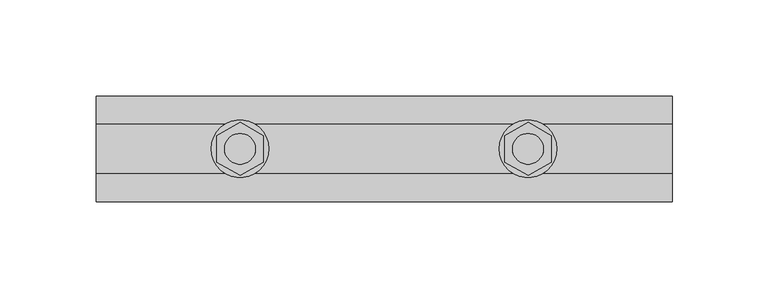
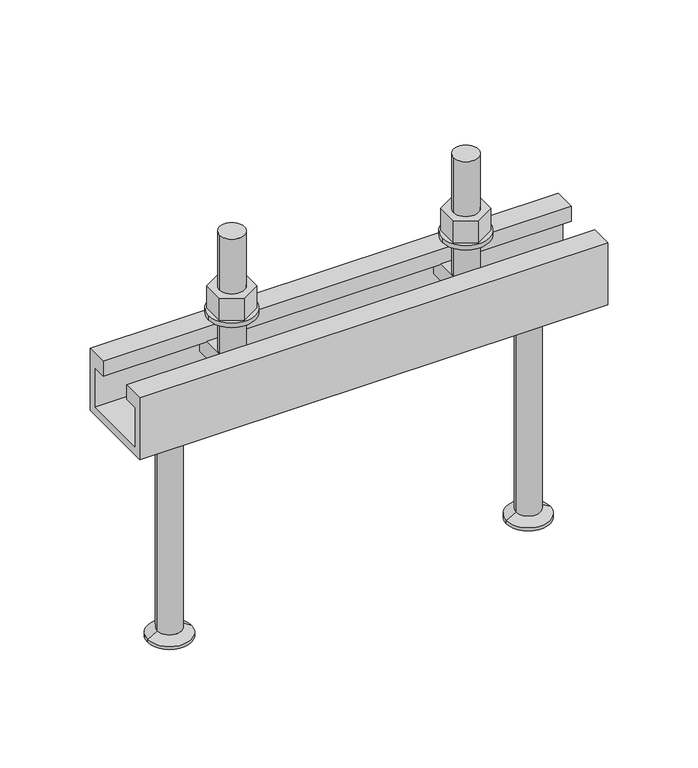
"""IFC4 building model written with IfcOpenShell, lengths in millimetres: fastener geometry, JTA-W JORDAHL® AnchorChannels : JTA-W L=300 mm."""

from ifc_helpers import new_model, si_unit, point, frame, frame_2d, origin, place, context, project, spatial, polyline, circle_curve, trimmed, segment, composite_curve, outline, extrude, source, transform, mapped, element, save
from ifc_brep_helpers import plane_surface, cylinder_surface, revolved_surface, advanced_brep


def fastener_1f1ea62b(model_context):
    return source(origin(), model_context, "Body", "SolidModel", [
        extrude(outline(polyline([(225.0, -13.8564065), (213.0, -6.9282032), (213.0, 6.9282032), (225.0, 13.8564065), (237.0, 6.9282032), (237.0, -6.9282032), (225.0, -13.8564065)]), holes=[composite_curve([segment(trimmed(circle_curve(frame_2d((225.0, 0.0)), 8.0), [point((217.0, 0.0))], [point((233.0, 0.0))], True, "CARTESIAN"), True, "CONTINUOUS"), segment(trimmed(circle_curve(frame_2d((225.0, 0.0)), 8.0), [point((233.0, 0.0))], [point((217.0, 0.0))], True, "CARTESIAN"), True, "CONTINUOUS")], self_intersect=False)]), frame((0.0, 0.0, 18.0), z_axis=(0.0, 0.0, 1.0), x_axis=(1.0, 0.0, 0.0)), (0.0, 0.0, 1.0), 14.8),
        extrude(outline(composite_curve([segment(trimmed(circle_curve(frame_2d((225.0, 0.0)), 15.0), [point((210.0, 0.0))], [point((240.0, 0.0))], False, "CARTESIAN"), True, "CONTINUOUS"), segment(trimmed(circle_curve(frame_2d((225.0, 0.0)), 15.0), [point((240.0, 0.0))], [point((210.0, 0.0))], False, "CARTESIAN"), True, "CONTINUOUS")], self_intersect=False), holes=[composite_curve([segment(trimmed(circle_curve(frame_2d((225.0, 0.0)), 8.5), [point((216.5, 0.0))], [point((233.5, 0.0))], True, "CARTESIAN"), True, "CONTINUOUS"), segment(trimmed(circle_curve(frame_2d((225.0, 0.0)), 8.5), [point((233.5, 0.0))], [point((216.5, 0.0))], True, "CARTESIAN"), True, "CONTINUOUS")], self_intersect=False)]), frame((0.0, 0.0, 15.0), z_axis=(0.0, 0.0, 1.0), x_axis=(1.0, 0.0, 0.0)), (0.0, 0.0, 1.0), 3.0),
        extrude(outline(polyline([(75.0, -13.8564065), (63.0, -6.9282032), (63.0, 6.9282032), (75.0, 13.8564065), (87.0, 6.9282032), (87.0, -6.9282032), (75.0, -13.8564065)]), holes=[composite_curve([segment(trimmed(circle_curve(frame_2d((75.0, 0.0)), 8.0), [point((67.0, 0.0))], [point((83.0, 0.0))], True, "CARTESIAN"), True, "CONTINUOUS"), segment(trimmed(circle_curve(frame_2d((75.0, 0.0)), 8.0), [point((83.0, 0.0))], [point((67.0, 0.0))], True, "CARTESIAN"), True, "CONTINUOUS")], self_intersect=False)]), frame((0.0, 0.0, 18.0), z_axis=(0.0, 0.0, 1.0), x_axis=(1.0, 0.0, 0.0)), (0.0, 0.0, 1.0), 14.8),
        extrude(outline(composite_curve([segment(trimmed(circle_curve(frame_2d((75.0, 0.0)), 15.0), [point((60.0, 0.0))], [point((90.0, 0.0))], False, "CARTESIAN"), True, "CONTINUOUS"), segment(trimmed(circle_curve(frame_2d((75.0, 0.0)), 15.0), [point((90.0, 0.0))], [point((60.0, 0.0))], False, "CARTESIAN"), True, "CONTINUOUS")], self_intersect=False), holes=[composite_curve([segment(trimmed(circle_curve(frame_2d((75.0, 0.0)), 8.5), [point((66.5, 0.0))], [point((83.5, 0.0))], True, "CARTESIAN"), True, "CONTINUOUS"), segment(trimmed(circle_curve(frame_2d((75.0, 0.0)), 8.5), [point((83.5, 0.0))], [point((66.5, 0.0))], True, "CARTESIAN"), True, "CONTINUOUS")], self_intersect=False)]), frame((0.0, 0.0, 15.0), z_axis=(0.0, 0.0, 1.0), x_axis=(1.0, 0.0, 0.0)), (0.0, 0.0, 1.0), 3.0),
        advanced_brep(
        [(233.5, -20.7, -10.0), (233.5, -20.7, -21.0), (233.5, 20.7, -21.0), (233.5, 20.7, -10.0), (216.5, -20.7, -10.0), (216.5, 20.7, -10.0), (216.5, 20.7, -21.0), (216.5, -20.7, -21.0), (233.0, 0.0, -10.0), (217.0, 0.0, -10.0), (217.0, 0.0, 70.0), (233.0, 0.0, 70.0)],
        [
            (0, 1),
            (1, 2),
            (2, 3),
            (3, 0),
            (4, 5),
            (5, 6),
            (6, 7),
            (7, 4),
            (3, 5),
            (4, 0),
            (8, 9, circle_curve(frame((225.0, 0.0, -10.0), z_axis=(0.0, 0.0, -1.0), x_axis=(1.0, 0.0, 0.0)), 8.0)),
            (9, 8, circle_curve(frame((225.0, 0.0, -10.0), z_axis=(0.0, 0.0, -1.0), x_axis=(1.0, 0.0, 0.0)), 8.0)),
            (2, 6),
            (1, 7),
            (10, 11, circle_curve(frame((225.0, 0.0, 70.0), z_axis=(0.0, 0.0, 1.0), x_axis=(1.0, 0.0, 0.0)), 8.0)),
            (11, 10, circle_curve(frame((225.0, 0.0, 70.0), z_axis=(0.0, 0.0, 1.0), x_axis=(1.0, 0.0, 0.0)), 8.0)),
            (11, 8),
            (9, 10),
        ],
        [
            plane_surface(frame((233.5, 20.7, -10.0), z_axis=(1.0, 0.0, 0.0), x_axis=(0.0, 1.0, 0.0))),
            plane_surface(frame((216.5, 20.7, -10.0), z_axis=(-1.0, 0.0, 0.0), x_axis=(0.0, -1.0, 0.0))),
            plane_surface(frame((233.5, -20.7, -10.0), z_axis=(0.0, 0.0, 1.0), x_axis=(-1.0, 0.0, 0.0))),
            plane_surface(frame((233.5, 20.7, -10.0), z_axis=(0.0, 1.0, 0.0), x_axis=(-1.0, 0.0, 0.0))),
            plane_surface(frame((233.5, 20.7, -21.0), z_axis=(0.0, 0.0, -1.0), x_axis=(-1.0, 0.0, 0.0))),
            plane_surface(frame((233.5, -20.7, -21.0), z_axis=(0.0, -1.0, 0.0), x_axis=(-1.0, 0.0, 0.0))),
            plane_surface(frame((233.0, 0.0, 70.0), z_axis=(0.0, 0.0, 1.0), x_axis=(0.0, -1.0, 0.0))),
            cylinder_surface(frame((225.0, 0.0, -10.0), z_axis=(0.0, 0.0, 1.0), x_axis=(1.0, 0.0, 0.0)), 8.0),
        ],
        [
            (0, [[1, 2, 3, 4]]),
            (1, [[5, 6, 7, 8]]),
            (2, [[9, -5, 10, -4], [11, 12]]),
            (3, [[13, -6, -9, -3]]),
            (4, [[14, -7, -13, -2]]),
            (5, [[-10, -8, -14, -1]]),
            (6, [[15, 16]]),
            (7, [[17, -12, 18, -16]]),
            (7, [[-18, -11, -17, -15]]),
        ],
    ),
        advanced_brep(
        [(83.5, -20.7, -10.0), (83.5, -20.7, -21.0), (83.5, 20.7, -21.0), (83.5, 20.7, -10.0), (66.5, -20.7, -10.0), (66.5, 20.7, -10.0), (66.5, 20.7, -21.0), (66.5, -20.7, -21.0), (83.0, 0.0, -10.0), (67.0, 0.0, -10.0), (67.0, 0.0, 70.0), (83.0, 0.0, 70.0)],
        [
            (0, 1),
            (1, 2),
            (2, 3),
            (3, 0),
            (4, 5),
            (5, 6),
            (6, 7),
            (7, 4),
            (3, 5),
            (4, 0),
            (8, 9, circle_curve(frame((75.0, 0.0, -10.0), z_axis=(0.0, 0.0, -1.0), x_axis=(1.0, 0.0, 0.0)), 8.0)),
            (9, 8, circle_curve(frame((75.0, 0.0, -10.0), z_axis=(0.0, 0.0, -1.0), x_axis=(1.0, 0.0, 0.0)), 8.0)),
            (2, 6),
            (1, 7),
            (10, 11, circle_curve(frame((75.0, 0.0, 70.0), z_axis=(0.0, 0.0, 1.0), x_axis=(1.0, 0.0, 0.0)), 8.0)),
            (11, 10, circle_curve(frame((75.0, 0.0, 70.0), z_axis=(0.0, 0.0, 1.0), x_axis=(1.0, 0.0, 0.0)), 8.0)),
            (11, 8),
            (9, 10),
        ],
        [
            plane_surface(frame((83.5, 20.7, -10.0), z_axis=(1.0, 0.0, 0.0), x_axis=(0.0, 1.0, 0.0))),
            plane_surface(frame((66.5, 20.7, -10.0), z_axis=(-1.0, 0.0, 0.0), x_axis=(0.0, -1.0, 0.0))),
            plane_surface(frame((83.5, -20.7, -10.0), z_axis=(0.0, 0.0, 1.0), x_axis=(-1.0, 0.0, 0.0))),
            plane_surface(frame((83.5, 20.7, -10.0), z_axis=(0.0, 1.0, 0.0), x_axis=(-1.0, 0.0, 0.0))),
            plane_surface(frame((83.5, 20.7, -21.0), z_axis=(0.0, 0.0, -1.0), x_axis=(-1.0, 0.0, 0.0))),
            plane_surface(frame((83.5, -20.7, -21.0), z_axis=(0.0, -1.0, 0.0), x_axis=(-1.0, 0.0, 0.0))),
            plane_surface(frame((83.0, 0.0, 70.0), z_axis=(0.0, 0.0, 1.0), x_axis=(0.0, -1.0, 0.0))),
            cylinder_surface(frame((75.0, 0.0, -10.0), z_axis=(0.0, 0.0, 1.0), x_axis=(1.0, 0.0, 0.0)), 8.0),
        ],
        [
            (0, [[1, 2, 3, 4]]),
            (1, [[5, 6, 7, 8]]),
            (2, [[9, -5, 10, -4], [11, 12]]),
            (3, [[13, -6, -9, -3]]),
            (4, [[14, -7, -13, -2]]),
            (5, [[-10, -8, -14, -1]]),
            (6, [[15, 16]]),
            (7, [[17, -12, 18, -16]]),
            (7, [[-18, -11, -17, -15]]),
        ],
    ),
        advanced_brep(
        [(265.0, 0.0, -42.0), (242.0, 0.0, -42.0), (288.0, 0.0, -42.0), (251.0, 0.0, -190.0), (265.0, 0.0, -190.0), (279.0, 0.0, -190.0), (251.0, 0.0, -188.0), (279.0, 0.0, -188.0), (257.2, 0.0, -184.4204283), (272.8, 0.0, -184.4204283), (257.2, 0.0, -46.0), (272.8, 0.0, -46.0)],
        [
            (0, 1),
            (1, 2, circle_curve(frame((265.0, 0.0, -42.0), z_axis=(0.0, 0.0, 1.0), x_axis=(1.0, 0.0, 0.0)), 23.0)),
            (2, 0),
            (2, 1, circle_curve(frame((265.0, 0.0, -42.0), z_axis=(0.0, 0.0, 1.0), x_axis=(1.0, 0.0, 0.0)), 23.0)),
            (3, 4),
            (4, 5),
            (5, 3, circle_curve(frame((265.0, 0.0, -190.0), z_axis=(0.0, 0.0, -1.0), x_axis=(1.0, 0.0, 0.0)), 14.0)),
            (3, 5, circle_curve(frame((265.0, 0.0, -190.0), z_axis=(0.0, 0.0, -1.0), x_axis=(1.0, 0.0, 0.0)), 14.0)),
            (6, 3),
            (5, 7),
            (7, 6, circle_curve(frame((265.0, 0.0, -188.0), z_axis=(0.0, 0.0, -1.0), x_axis=(1.0, 0.0, 0.0)), 14.0)),
            (6, 7, circle_curve(frame((265.0, 0.0, -188.0), z_axis=(0.0, 0.0, -1.0), x_axis=(1.0, 0.0, 0.0)), 14.0)),
            (8, 6),
            (7, 9),
            (9, 8, circle_curve(frame((265.0, 0.0, -184.4204283), z_axis=(0.0, 0.0, -1.0), x_axis=(1.0, 0.0, 0.0)), 7.8)),
            (8, 9, circle_curve(frame((265.0, 0.0, -184.4204283), z_axis=(0.0, 0.0, -1.0), x_axis=(1.0, 0.0, 0.0)), 7.8)),
            (10, 8),
            (9, 11),
            (11, 10, circle_curve(frame((265.0, 0.0, -46.0), z_axis=(0.0, 0.0, -1.0), x_axis=(1.0, 0.0, 0.0)), 7.8)),
            (10, 11, circle_curve(frame((265.0, 0.0, -46.0), z_axis=(0.0, 0.0, -1.0), x_axis=(1.0, 0.0, 0.0)), 7.8)),
            (1, 10),
            (11, 2),
        ],
        [
            plane_surface(frame((265.0, 0.0, -42.0), z_axis=(0.0, 0.0, 1.0), x_axis=(1.0, 0.0, 0.0))),
            plane_surface(frame((265.0, 0.0, -190.0), z_axis=(0.0, 0.0, -1.0), x_axis=(1.0, 0.0, 0.0))),
            cylinder_surface(frame((265.0, 0.0, 2362.3150031), z_axis=(0.0, 0.0, 1.0), x_axis=(1.0, 0.0, 0.0)), 14.0),
            revolved_surface(polyline([(279.0, 0.0, -188.0), (272.8, 0.0, -184.4204283)]), (265.0, 0.0, 2362.3150031), (0.0, 0.0, 1.0)),
            cylinder_surface(frame((265.0, 0.0, 2362.3150031), z_axis=(0.0, 0.0, 1.0), x_axis=(1.0, 0.0, 0.0)), 7.8),
            revolved_surface(polyline([(272.8, 0.0, -46.0), (288.0, 0.0, -42.0)]), (265.0, 0.0, 2362.3150031), (0.0, 0.0, 1.0)),
        ],
        [
            (0, [[1, 2, 3]]),
            (0, [[-3, 4, -1]]),
            (1, [[5, 6, 7]]),
            (1, [[-6, -5, 8]]),
            (2, [[9, -7, 10, 11]]),
            (2, [[-10, -8, -9, 12]]),
            (3, [[13, -11, 14, 15]]),
            (3, [[-14, -12, -13, 16]]),
            (4, [[17, -15, 18, 19]]),
            (4, [[-18, -16, -17, 20]]),
            (5, [[21, -19, 22, -2]]),
            (5, [[-22, -20, -21, -4]]),
        ],
    ),
        advanced_brep(
        [(35.0, 0.0, -42.0), (12.0, 0.0, -42.0), (58.0, 0.0, -42.0), (21.0, 0.0, -190.0), (35.0, 0.0, -190.0), (49.0, 0.0, -190.0), (21.0, 0.0, -188.0), (49.0, 0.0, -188.0), (27.2, 0.0, -184.4204283), (42.8, 0.0, -184.4204283), (27.2, 0.0, -46.0), (42.8, 0.0, -46.0)],
        [
            (0, 1),
            (1, 2, circle_curve(frame((35.0, 0.0, -42.0), z_axis=(0.0, 0.0, 1.0), x_axis=(1.0, 0.0, 0.0)), 23.0)),
            (2, 0),
            (2, 1, circle_curve(frame((35.0, 0.0, -42.0), z_axis=(0.0, 0.0, 1.0), x_axis=(1.0, 0.0, 0.0)), 23.0)),
            (3, 4),
            (4, 5),
            (5, 3, circle_curve(frame((35.0, 0.0, -190.0), z_axis=(0.0, 0.0, -1.0), x_axis=(1.0, 0.0, 0.0)), 14.0)),
            (3, 5, circle_curve(frame((35.0, 0.0, -190.0), z_axis=(0.0, 0.0, -1.0), x_axis=(1.0, 0.0, 0.0)), 14.0)),
            (6, 3),
            (5, 7),
            (7, 6, circle_curve(frame((35.0, 0.0, -188.0), z_axis=(0.0, 0.0, -1.0), x_axis=(1.0, 0.0, 0.0)), 14.0)),
            (6, 7, circle_curve(frame((35.0, 0.0, -188.0), z_axis=(0.0, 0.0, -1.0), x_axis=(1.0, 0.0, 0.0)), 14.0)),
            (8, 6),
            (7, 9),
            (9, 8, circle_curve(frame((35.0, 0.0, -184.4204283), z_axis=(0.0, 0.0, -1.0), x_axis=(1.0, 0.0, 0.0)), 7.8)),
            (8, 9, circle_curve(frame((35.0, 0.0, -184.4204283), z_axis=(0.0, 0.0, -1.0), x_axis=(1.0, 0.0, 0.0)), 7.8)),
            (10, 8),
            (9, 11),
            (11, 10, circle_curve(frame((35.0, 0.0, -46.0), z_axis=(0.0, 0.0, -1.0), x_axis=(1.0, 0.0, 0.0)), 7.8)),
            (10, 11, circle_curve(frame((35.0, 0.0, -46.0), z_axis=(0.0, 0.0, -1.0), x_axis=(1.0, 0.0, 0.0)), 7.8)),
            (1, 10),
            (11, 2),
        ],
        [
            plane_surface(frame((35.0, 0.0, -42.0), z_axis=(0.0, 0.0, 1.0), x_axis=(1.0, 0.0, 0.0))),
            plane_surface(frame((35.0, 0.0, -190.0), z_axis=(0.0, 0.0, -1.0), x_axis=(1.0, 0.0, 0.0))),
            cylinder_surface(frame((35.0, 0.0, 2362.3150031), z_axis=(0.0, 0.0, 1.0), x_axis=(1.0, 0.0, 0.0)), 14.0),
            revolved_surface(polyline([(49.0, 0.0, -188.0), (42.8, 0.0, -184.4204283)]), (35.0, 0.0, 2362.3150031), (0.0, 0.0, 1.0)),
            cylinder_surface(frame((35.0, 0.0, 2362.3150031), z_axis=(0.0, 0.0, 1.0), x_axis=(1.0, 0.0, 0.0)), 7.8),
            revolved_surface(polyline([(42.8, 0.0, -46.0), (58.0, 0.0, -42.0)]), (35.0, 0.0, 2362.3150031), (0.0, 0.0, 1.0)),
        ],
        [
            (0, [[1, 2, 3]]),
            (0, [[-3, 4, -1]]),
            (1, [[5, 6, 7]]),
            (1, [[-6, -5, 8]]),
            (2, [[9, -7, 10, 11]]),
            (2, [[-10, -8, -9, 12]]),
            (3, [[13, -11, 14, 15]]),
            (3, [[-14, -12, -13, 16]]),
            (4, [[17, -15, 18, 19]]),
            (4, [[-18, -16, -17, 20]]),
            (5, [[21, -19, 22, -2]]),
            (5, [[-22, -20, -21, -4]]),
        ],
    ),
        extrude(outline(polyline([(-27.5, 0.0), (-13.0, 0.0), (-13.0, -10.0), (-22.5, -10.0), (-22.5, -37.0), (22.5, -37.0), (22.5, -10.0), (13.0, -10.0), (13.0, 0.0), (27.5, 0.0), (27.5, -42.0), (-27.5, -42.0), (-27.5, 0.0)])), frame((0.0, 0.0, 0.0), z_axis=(1.0, 0.0, 0.0), x_axis=(0.0, 1.0, 0.0)), (0.0, 0.0, 1.0), 300.0),
    ])


if __name__ == "__main__":
    model = new_model("IFC4")
    model_context = context("Model", 3, world=origin())
    ifc_project = project(units=[si_unit("LENGTHUNIT", "METRE", prefix="MILLI")], contexts=[model_context])
    site = spatial("IfcSite", under=ifc_project)
    building = spatial("IfcBuilding", under=site)
    placement = place(None, origin())
    fastener_shape = fastener_1f1ea62b(model_context)
    element("IfcFastener", 1, ObjectType="JTA-W JORDAHL® AnchorChannels : JTA-W L=300 mm", at=placement, inside=building, context=model_context, shape_type="MappedRepresentation", body=[
        mapped(fastener_shape, transform((0.0, 0.0, 0.0), x_axis=(1.0, 0.0, 0.0), y_axis=(0.0, 1.0, 0.0), z_axis=(0.0, 0.0, 1.0))),
    ])
    save(model, "model.ifc")
